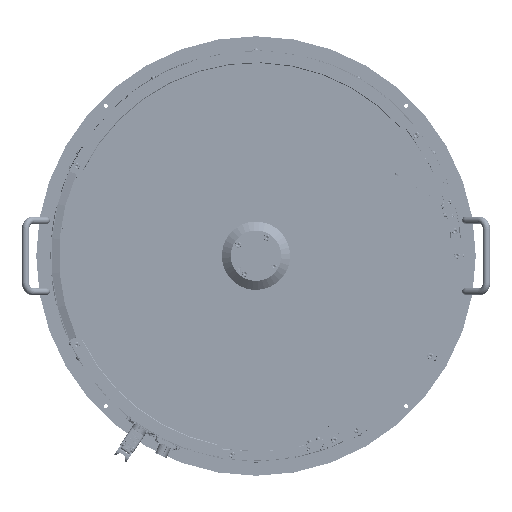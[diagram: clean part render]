
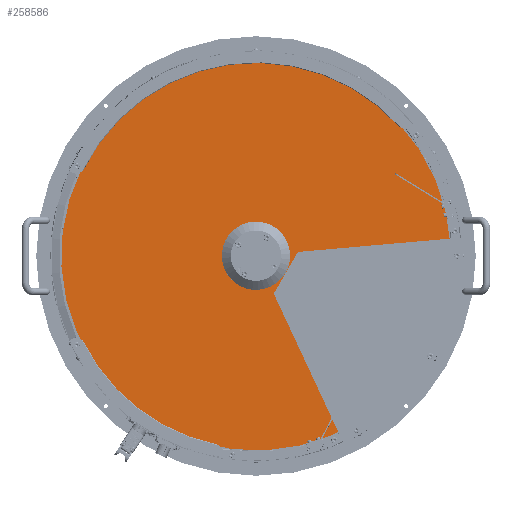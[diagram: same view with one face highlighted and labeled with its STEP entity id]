
A CAD part, top view. The second image highlights one B-rep face of the part: STEP entity #258586.
In plain terms, the highlighted planar face has unit normal (0, 0, 1) as drawn and (0, 0, -1) by its records, which use the part's own axes.
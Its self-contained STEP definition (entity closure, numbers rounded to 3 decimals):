
#25894 = EDGE_CURVE ( 'NONE', #154173, #422708, #90805, .T. ) ;
#34862 = CIRCLE ( 'NONE', #99547, 328. ) ;
#47525 = FACE_OUTER_BOUND ( 'NONE', #47760, .T. ) ;
#47760 = EDGE_LOOP ( 'NONE', ( #271762, #215923 ) ) ;
#52114 = AXIS2_PLACEMENT_3D ( 'NONE', #337811, #375943, #259353 ) ;
#67437 = DIRECTION ( 'NONE',  ( 0., 0., 1. ) ) ;
#90805 = CIRCLE ( 'NONE', #131205, 328. ) ;
#99547 = AXIS2_PLACEMENT_3D ( 'NONE', #248153, #438389, #326614 ) ;
#131205 = AXIS2_PLACEMENT_3D ( 'NONE', #232674, #189594, #237679 ) ;
#138377 = FACE_BOUND ( 'NONE', #308625, .T. ) ;
#154173 = VERTEX_POINT ( 'NONE', #364085 ) ;
#170983 = CARTESIAN_POINT ( 'NONE',  ( 42.6, 0., 0. ) ) ;
#189594 = DIRECTION ( 'NONE',  ( 0., 0., 1. ) ) ;
#211029 = DIRECTION ( 'NONE',  ( 1., 0., 0. ) ) ;
#215923 = ORIENTED_EDGE ( 'NONE', *, *, #258375, .F. ) ;
#229492 = CARTESIAN_POINT ( 'NONE',  ( 328., 0., 0. ) ) ;
#232674 = CARTESIAN_POINT ( 'NONE',  ( 0., 0., 0. ) ) ;
#237679 = DIRECTION ( 'NONE',  ( 1., 0., 0. ) ) ;
#248153 = CARTESIAN_POINT ( 'NONE',  ( 0., 0., 0. ) ) ;
#255311 = VERTEX_POINT ( 'NONE', #270907 ) ;
#258375 = EDGE_CURVE ( 'NONE', #422708, #154173, #34862, .T. ) ;
#258586 = ADVANCED_FACE ( 'NONE', ( #47525, #138377 ), #297866, .F. ) ;
#259353 = DIRECTION ( 'NONE',  ( 1., 0., 0. ) ) ;
#269559 = AXIS2_PLACEMENT_3D ( 'NONE', #369092, #67437, #480744 ) ;
#270907 = CARTESIAN_POINT ( 'NONE',  ( -42.6, 0., 0. ) ) ;
#271762 = ORIENTED_EDGE ( 'NONE', *, *, #25894, .F. ) ;
#285220 = ORIENTED_EDGE ( 'NONE', *, *, #364879, .T. ) ;
#297866 = PLANE ( 'NONE',  #269559 ) ;
#299950 = CIRCLE ( 'NONE', #381164, 42.6 ) ;
#308625 = EDGE_LOOP ( 'NONE', ( #285220, #469125 ) ) ;
#326614 = DIRECTION ( 'NONE',  ( 1., 0., 0. ) ) ;
#330119 = DIRECTION ( 'NONE',  ( 0., 0., 1. ) ) ;
#337811 = CARTESIAN_POINT ( 'NONE',  ( 0., 0., 0. ) ) ;
#345955 = EDGE_CURVE ( 'NONE', #423787, #255311, #440717, .T. ) ;
#364085 = CARTESIAN_POINT ( 'NONE',  ( -328., 0., 0. ) ) ;
#364879 = EDGE_CURVE ( 'NONE', #255311, #423787, #299950, .T. ) ;
#369092 = CARTESIAN_POINT ( 'NONE',  ( 0., 0., 0. ) ) ;
#375943 = DIRECTION ( 'NONE',  ( 0., 0., 1. ) ) ;
#381164 = AXIS2_PLACEMENT_3D ( 'NONE', #444377, #330119, #211029 ) ;
#422708 = VERTEX_POINT ( 'NONE', #229492 ) ;
#423787 = VERTEX_POINT ( 'NONE', #170983 ) ;
#438389 = DIRECTION ( 'NONE',  ( 0., 0., 1. ) ) ;
#440717 = CIRCLE ( 'NONE', #52114, 42.6 ) ;
#444377 = CARTESIAN_POINT ( 'NONE',  ( 0., 0., 0. ) ) ;
#469125 = ORIENTED_EDGE ( 'NONE', *, *, #345955, .T. ) ;
#480744 = DIRECTION ( 'NONE',  ( 1., 0., 0. ) ) ;
